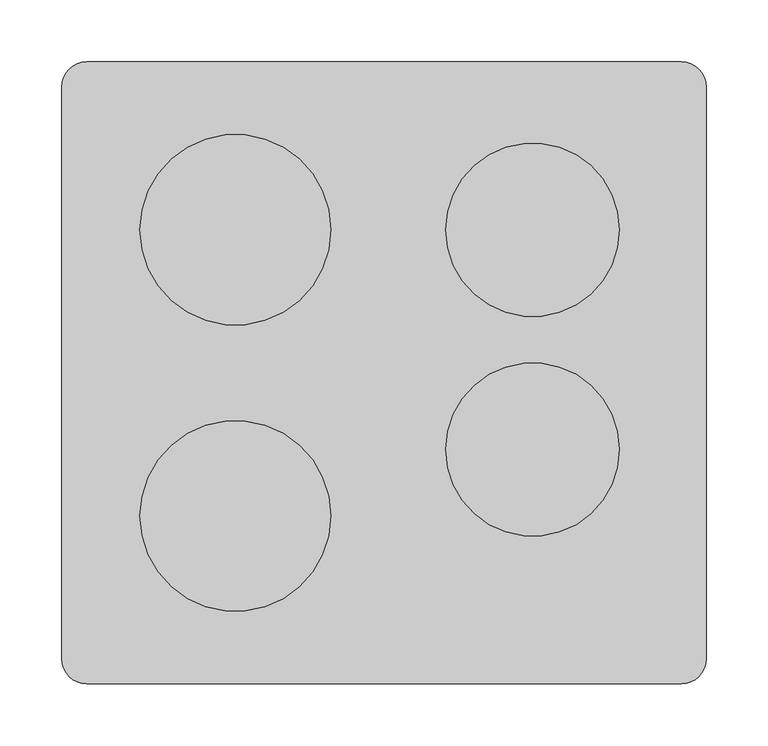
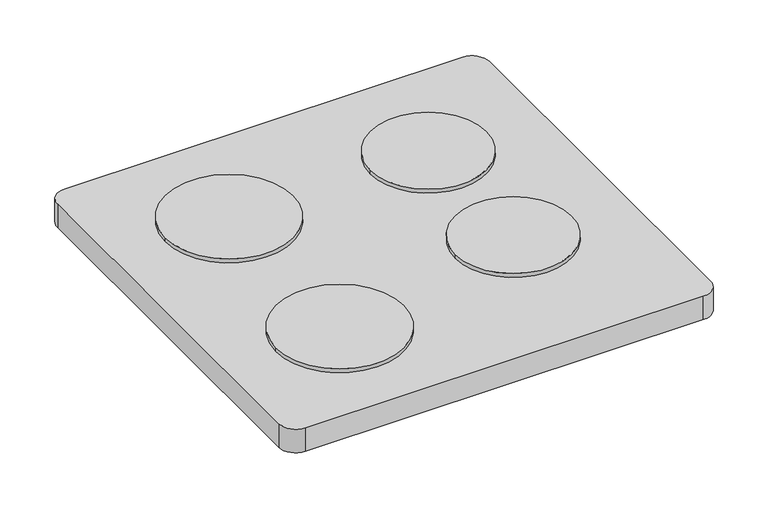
"""IFC4 building model written with IfcOpenShell, lengths in millimetres: proxy geometry, Electric Hob : Electric Hob."""

from ifc_helpers import new_model, si_unit, point, frame, frame_2d, origin, origin_with_axes, place, context, project, spatial, polyline, circle_curve, trimmed, segment, composite_curve, outline, extrude, source, transform, mapped, element, save


def specialty_equipment_2e13d9fc(model_context):
    return source(origin(), model_context, "Body", "SweptSolid", [
        extrude(outline(composite_curve([segment(trimmed(circle_curve(frame_2d((-99.0, 115.5)), 77.0), [point((-176.0, 115.5))], [point((-22.0, 115.5))], False, "CARTESIAN"), True, "CONTINUOUS"), segment(trimmed(circle_curve(frame_2d((-99.0, 115.5)), 77.0), [point((-22.0, 115.5))], [point((-176.0, 115.5))], False, "CARTESIAN"), True, "CONTINUOUS")], self_intersect=False)), frame((0.0, 0.0, 30.0), z_axis=(0.0, 0.0, 1.0), x_axis=(1.0, 0.0, 0.0)), (0.0, 0.0, 1.0), 5.0),
        extrude(outline(composite_curve([segment(trimmed(circle_curve(frame_2d((-99.0, -115.5)), 77.0), [point((-176.0, -115.5))], [point((-22.0, -115.5))], False, "CARTESIAN"), True, "CONTINUOUS"), segment(trimmed(circle_curve(frame_2d((-99.0, -115.5)), 77.0), [point((-22.0, -115.5))], [point((-176.0, -115.5))], False, "CARTESIAN"), True, "CONTINUOUS")], self_intersect=False)), frame((0.0, 0.0, 30.0), z_axis=(0.0, 0.0, 1.0), x_axis=(1.0, 0.0, 0.0)), (0.0, 0.0, 1.0), 5.0),
        extrude(outline(composite_curve([segment(trimmed(circle_curve(frame_2d((141.0, 115.5)), 70.0), [point((71.0, 115.5))], [point((211.0, 115.5))], False, "CARTESIAN"), True, "CONTINUOUS"), segment(trimmed(circle_curve(frame_2d((141.0, 115.5)), 70.0), [point((211.0, 115.5))], [point((71.0, 115.5))], False, "CARTESIAN"), True, "CONTINUOUS")], self_intersect=False)), frame((0.0, 0.0, 30.0), z_axis=(0.0, 0.0, 1.0), x_axis=(1.0, 0.0, 0.0)), (0.0, 0.0, 1.0), 5.0),
        extrude(outline(composite_curve([segment(trimmed(circle_curve(frame_2d((141.0, -61.8682566)), 70.0), [point((71.0, -61.8682566))], [point((211.0, -61.8682566))], False, "CARTESIAN"), True, "CONTINUOUS"), segment(trimmed(circle_curve(frame_2d((141.0, -61.8682566)), 70.0), [point((211.0, -61.8682566))], [point((71.0, -61.8682566))], False, "CARTESIAN"), True, "CONTINUOUS")], self_intersect=False)), frame((0.0, 0.0, 30.0), z_axis=(0.0, 0.0, 1.0), x_axis=(1.0, 0.0, 0.0)), (0.0, 0.0, 1.0), 5.0),
        extrude(outline(composite_curve([segment(polyline([(261.0, -251.0), (-219.0, -251.0)]), True, "CONTINUOUS"), segment(trimmed(circle_curve(frame_2d((-219.0, -231.0)), 20.0), [point((-219.0, -251.0))], [point((-239.0, -231.0))], False, "CARTESIAN"), True, "CONTINUOUS"), segment(polyline([(-239.0, -231.0), (-239.0, 231.0)]), True, "CONTINUOUS"), segment(trimmed(circle_curve(frame_2d((-219.0, 231.0)), 20.0), [point((-239.0, 231.0))], [point((-219.0, 251.0))], False, "CARTESIAN"), True, "CONTINUOUS"), segment(polyline([(-219.0, 251.0), (261.0, 251.0)]), True, "CONTINUOUS"), segment(trimmed(circle_curve(frame_2d((261.0, 231.0)), 20.0), [point((261.0, 251.0))], [point((281.0, 231.0))], False, "CARTESIAN"), True, "CONTINUOUS"), segment(polyline([(281.0, 231.0), (281.0, -231.0)]), True, "CONTINUOUS"), segment(trimmed(circle_curve(frame_2d((261.0, -231.0)), 20.0), [point((281.0, -231.0))], [point((261.0, -251.0))], False, "CARTESIAN"), True, "CONTINUOUS")], self_intersect=False)), origin_with_axes(), (0.0, 0.0, 1.0), 30.0),
    ])


if __name__ == "__main__":
    model = new_model("IFC4")
    model_context = context("Model", 3, world=origin())
    ifc_project = project(units=[si_unit("LENGTHUNIT", "METRE", prefix="MILLI")], contexts=[model_context])
    site = spatial("IfcSite", under=ifc_project)
    building = spatial("IfcBuilding", under=site)
    placement = place(None, origin())
    specialty_equipment_shape = specialty_equipment_2e13d9fc(model_context)
    element("IfcBuildingElementProxy", 1, Name="Electric Hob : Electric Hob", ObjectType="Electric Hob : Electric Hob", at=placement, inside=building, context=model_context, shape_type="MappedRepresentation", body=[
        mapped(specialty_equipment_shape, transform((0.0, 0.0, 0.0), x_axis=(1.0, 0.0, 0.0), y_axis=(0.0, 1.0, 0.0), z_axis=(0.0, 0.0, 1.0))),
    ])
    save(model, "model.ifc")
